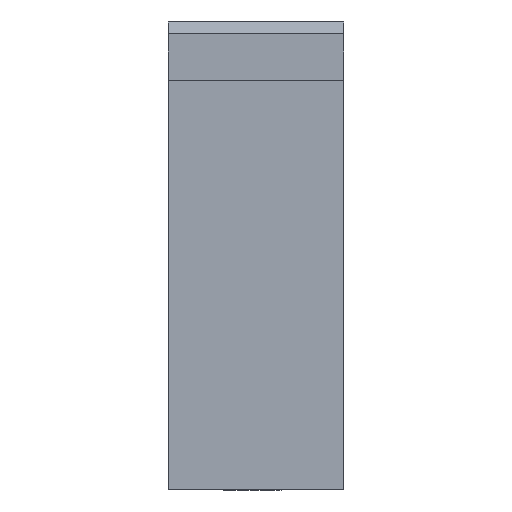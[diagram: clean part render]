
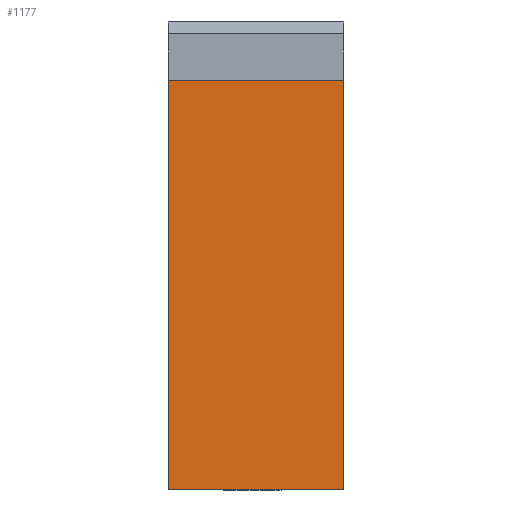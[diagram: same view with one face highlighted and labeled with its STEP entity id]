
A CAD part, front view. The second image highlights one B-rep face of the part: STEP entity #1177.
In plain terms, the highlighted planar face has unit normal (0, -1, 0).
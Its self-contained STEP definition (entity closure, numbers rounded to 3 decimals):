
#248=CARTESIAN_POINT('Vertex',(-15.,-53.,-48.)) ;
#251=CARTESIAN_POINT('Line Origine',(-15.,-53.,-13.)) ;
#255=CARTESIAN_POINT('Vertex',(-15.,-53.,22.)) ;
#1071=CARTESIAN_POINT('Line Origine',(0.,-53.,-48.)) ;
#1075=CARTESIAN_POINT('Vertex',(15.,-53.,-48.)) ;
#1154=CARTESIAN_POINT('Axis2P3D Location',(0.,-53.,-48.)) ;
#1159=CARTESIAN_POINT('Line Origine',(0.,-53.,22.)) ;
#1163=CARTESIAN_POINT('Vertex',(15.,-53.,22.)) ;
#1166=CARTESIAN_POINT('Line Origine',(15.,-53.,-13.)) ;
#252=DIRECTION('Vector Direction',(0.,0.,1.)) ;
#1072=DIRECTION('Vector Direction',(1.,0.,0.)) ;
#1155=DIRECTION('Axis2P3D Direction',(0.,1.,0.)) ;
#1156=DIRECTION('Axis2P3D XDirection',(0.,0.,1.)) ;
#1160=DIRECTION('Vector Direction',(1.,0.,0.)) ;
#1167=DIRECTION('Vector Direction',(0.,0.,1.)) ;
#1157=AXIS2_PLACEMENT_3D('Plane Axis2P3D',#1154,#1155,#1156) ;
#1172=ORIENTED_EDGE('',*,*,#1165,.F.) ;
#1173=ORIENTED_EDGE('',*,*,#257,.T.) ;
#1174=ORIENTED_EDGE('',*,*,#1077,.T.) ;
#1175=ORIENTED_EDGE('',*,*,#1170,.F.) ;
#253=VECTOR('Line Direction',#252,1.) ;
#1073=VECTOR('Line Direction',#1072,1.) ;
#1161=VECTOR('Line Direction',#1160,1.) ;
#1168=VECTOR('Line Direction',#1167,1.) ;
#1177=ADVANCED_FACE('BF25(H)',(#1176),#1158,.F.) ;
#257=EDGE_CURVE('',#256,#249,#254,.F.) ;
#1077=EDGE_CURVE('',#249,#1076,#1074,.T.) ;
#1165=EDGE_CURVE('',#256,#1164,#1162,.T.) ;
#1170=EDGE_CURVE('',#1164,#1076,#1169,.F.) ;
#1171=EDGE_LOOP('',(#1172,#1173,#1174,#1175)) ;
#1176=FACE_OUTER_BOUND('',#1171,.T.) ;
#254=LINE('Line',#251,#253) ;
#1074=LINE('Line',#1071,#1073) ;
#1162=LINE('Line',#1159,#1161) ;
#1169=LINE('Line',#1166,#1168) ;
#1158=PLANE('Plane',#1157) ;
#249=VERTEX_POINT('',#248) ;
#256=VERTEX_POINT('',#255) ;
#1076=VERTEX_POINT('',#1075) ;
#1164=VERTEX_POINT('',#1163) ;
